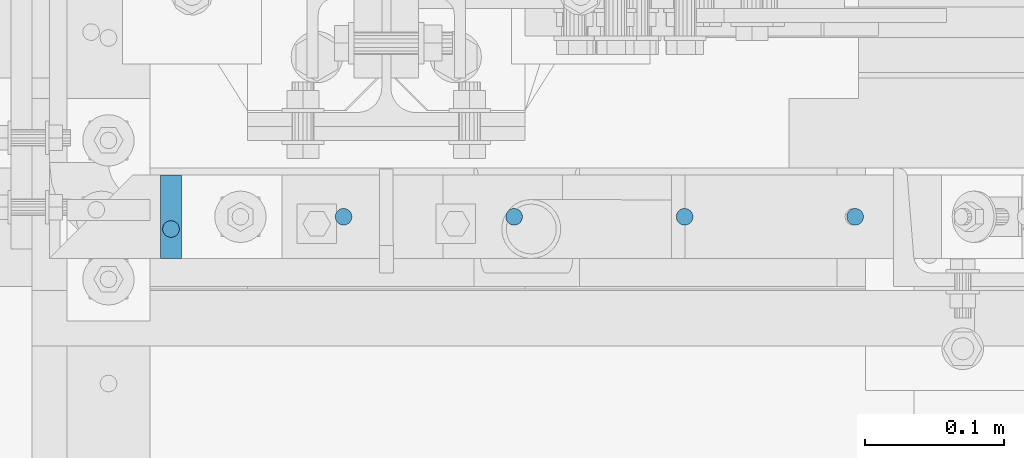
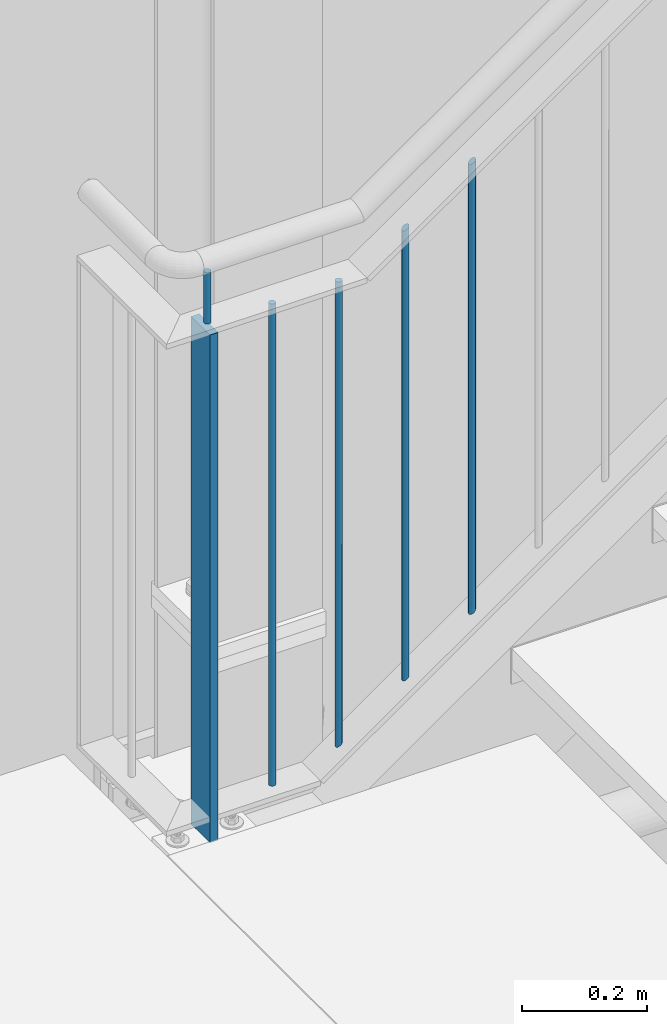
# One storey, part 69 of 821: 6 columns.
"""IFC2X3 building model written with IfcOpenShell, lengths in millimetres."""

from ifc_helpers import new_model, entity, si_unit, converted_unit, frame, origin, origin_with_axes, origin_2d, place, context, project, spatial, rectangle, circle, extrude, clip, halfspace, material, element, save


model = new_model("IFC2X3")

# Units and contexts
model_context = context("Model", 3, precision=1e-09, world=origin_with_axes())
ifc_project = project(units=[si_unit("LENGTHUNIT", "METRE", prefix="MILLI"), si_unit("AREAUNIT", "SQUARE_METRE"), si_unit("VOLUMEUNIT", "CUBIC_METRE"), converted_unit("PLANEANGLEUNIT", "DEGREE", entity("IfcPlaneAngleMeasure", 0.01745329), si_unit("PLANEANGLEUNIT", "RADIAN"), dimensions=[0, 0, 0, 0, 0, 0, 0])], contexts=[model_context])

# Site, building, storey
site_placement = place(None, origin_with_axes())
site = spatial("IfcSite", under=ifc_project, at=site_placement, Name="Cnopf'sche Kinderklinik", CompositionType="ELEMENT")
building_placement = place(site_placement, origin_with_axes())
building = spatial("IfcBuilding", under=site, at=building_placement, Name="Struktur 1", CompositionType="ELEMENT")
storey_placement = place(building_placement, origin_with_axes())
storey = spatial("IfcBuildingStorey", under=building, at=storey_placement, Name="Default Storey", CompositionType="ELEMENT", Elevation=0.0)

# Columns
ifc_material = material(Name="S235JR")
column_1_placement = place(None, frame((4701.713402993, 7356.736971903, 4886.723292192), z_axis=(0.0, 0.0, 1.0), x_axis=(1.0, 0.0, 0.0)))
element("IfcColumn", 1, at=column_1_placement, inside=storey, material=ifc_material, Name="Railing_Post_Landing#0", ObjectType="Railing_Post_Landing#0", context=model_context, shape_type="Clipping", body=[
    clip(clip(extrude(rectangle(XDim=15.0, YDim=60.0, at=origin_2d()), origin(), (0.0, 0.0, -1.0), 1070.646584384), halfspace(frame((-4701.713402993, -7356.736971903, -1019.722292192), z_axis=(0.0, 0.0, 1.0), x_axis=(1.0, 0.0, 0.0)), True)), halfspace(frame((-4701.713402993, -7356.736971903, -30.924292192), z_axis=(0.0, 0.0, -1.0), x_axis=(-1.0, 0.0, 0.0)), True)),
])
column_2_placement = place(None, frame((4825.963402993, 7356.736971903, 4869.285281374), z_axis=(0.0, 0.0, 1.0), x_axis=(1.0, 0.0, 0.0)))
element("IfcColumn", 2, at=column_2_placement, inside=storey, material=ifc_material, Name="Railing_Picket_Landing#0", ObjectType="Railing_Picket_Landing#0", context=model_context, shape_type="Clipping", body=[
    clip(extrude(circle(Radius=6.0, at=origin_2d()), origin(), (0.0, 0.0, -1.0), 952.285281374), halfspace(frame((-4825.963402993, -7356.736971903, -13.486281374), z_axis=(0.0, 0.0, -1.0), x_axis=(-1.0, 0.0, 0.0)), True)),
])
column_3_placement = place(None, frame((4948.713426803, 7356.736971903, 4855.8), z_axis=(0.0, 0.0, 1.0), x_axis=(1.0, 0.0, 0.0)))
element("IfcColumn", 3, at=column_3_placement, inside=storey, material=ifc_material, Name="Railing_Picket_Stair#1", ObjectType="Railing_Picket_Stair#1", context=model_context, shape_type="Clipping", body=[
    clip(extrude(circle(Radius=6.0, at=origin_2d()), origin(), (0.0, 0.0, -1.0), 913.289449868), halfspace(frame((-5171.61259365, -7356.736971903, -4538.747916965), z_axis=(-0.575128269, 0.0, 0.818063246), x_axis=(0.0, -1.0, 0.0)), True)),
])
column_4_placement = place(None, frame((5071.463450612, 7356.736971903, 4925.846278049), z_axis=(0.0, 0.0, 1.0), x_axis=(1.0, 0.0, 0.0)))
element("IfcColumn", 4, at=column_4_placement, inside=storey, material=ifc_material, Name="Railing_Picket_Stair#2", ObjectType="Railing_Picket_Stair#2", context=model_context, shape_type="Clipping", body=[
    clip(clip(extrude(circle(Radius=6.0, at=origin_2d()), origin(), (0.0, 0.0, -1.0), 897.037988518), halfspace(frame((-5294.362617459, -7356.736971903, -4608.794195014), z_axis=(-0.575128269, 0.0, 0.818063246), x_axis=(0.0, -1.0, 0.0)), True)), halfspace(frame((-5706.649784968, -7356.736971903, -4022.356358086), z_axis=(0.575128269, 0.0, -0.818063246), x_axis=(0.0, 1.0, 0.0)), True)),
])
column_5_placement = place(None, frame((5194.213474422, 7356.736971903, 5012.144017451), z_axis=(0.0, 0.0, 1.0), x_axis=(1.0, 0.0, 0.0)))
element("IfcColumn", 5, at=column_5_placement, inside=storey, material=ifc_material, Name="Railing_Picket_Stair#3", ObjectType="Railing_Picket_Stair#3", context=model_context, shape_type="Clipping", body=[
    clip(clip(extrude(circle(Radius=6.0, at=origin_2d()), origin(), (0.0, 0.0, -1.0), 897.037988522), halfspace(frame((-5417.112641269, -7356.736971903, -4695.091934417), z_axis=(-0.575128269, 0.0, 0.818063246), x_axis=(0.0, -1.0, 0.0)), True)), halfspace(frame((-5829.399808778, -7356.736971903, -4108.654097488), z_axis=(0.575128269, 0.0, -0.818063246), x_axis=(0.0, 1.0, 0.0)), True)),
])
column_6_placement = place(None, frame((4701.713402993, 7347.936971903, 4974.285281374), z_axis=(0.0, 0.0, 1.0), x_axis=(0.0, -1.0, 0.0)))
element("IfcColumn", 6, at=column_6_placement, inside=storey, material=ifc_material, Name="Bar#0", ObjectType="Bar#0", context=model_context, shape_type="Clipping", body=[
    clip(clip(extrude(circle(Radius=6.0, at=origin_2d()), origin(), (0.0, 0.0, -1.0), 116.970562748), halfspace(frame((7347.936971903, -4701.713402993, -8.486281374), z_axis=(0.0, 0.0, -1.0), x_axis=(0.0, -1.0, 0.0)), True)), halfspace(frame((7347.936971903, -4701.713402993, -108.484281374), z_axis=(0.0, 0.0, 1.0), x_axis=(0.0, 1.0, 0.0)), True)),
])

save(model, "model.ifc")
